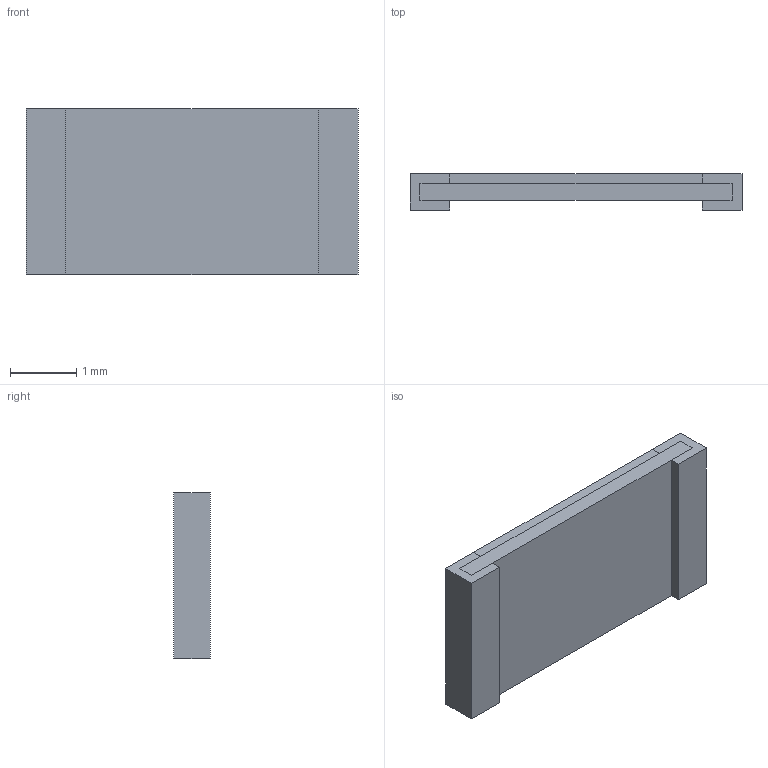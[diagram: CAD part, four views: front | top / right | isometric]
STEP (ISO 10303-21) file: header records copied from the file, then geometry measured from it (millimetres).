
FILE_DESCRIPTION(('FreeCAD Model'),'2;1');
FILE_NAME('Open CASCADE Shape Model','2022-02-08T17:24:00',('Author'),( ''),'Open CASCADE STEP processor 7.5','FreeCAD','Unknown');
FILE_SCHEMA(('AUTOMOTIVE_DESIGN { 1 0 10303 214 1 1 1 1 }'));
Length unit declared in the file: millimetre
Products named in the file (1): Pad002
Bounding box: 5 x 0.55 x 2.5 mm (x, y, z)
Volume: 5.5 mm3; surface area: 32.9 mm2
Topology: 1 solids, 1 shells, 18 faces, 48 edges, 32 vertices
Faces by surface type: plane 18
Entity records: 1320 total; most frequent: CARTESIAN_POINT 195, DIRECTION 182, LINE 144, VECTOR 144, ORIENTED_EDGE 96, PCURVE 96, DEFINITIONAL_REPRESENTATION 96, EDGE_CURVE 48
